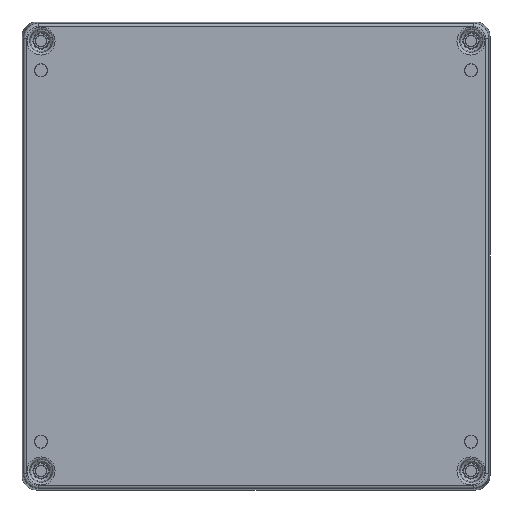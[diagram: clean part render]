
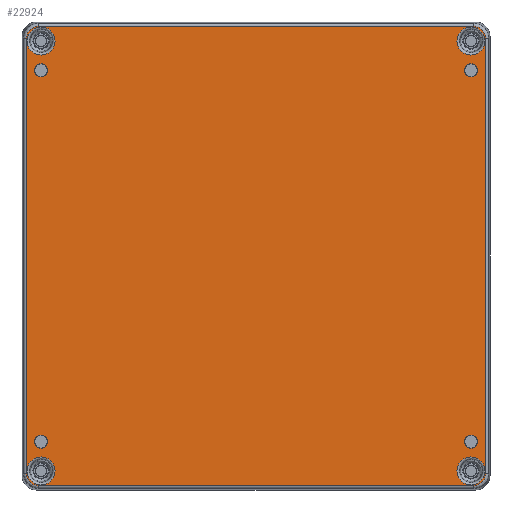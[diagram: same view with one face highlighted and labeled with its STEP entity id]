
A CAD part, front view. The second image highlights one B-rep face of the part: STEP entity #22924.
In plain terms, the highlighted planar face has unit normal (0, -1, 0).
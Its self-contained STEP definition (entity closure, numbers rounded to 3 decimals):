
#465=FACE_BOUND('',#6456,.T.);
#466=FACE_BOUND('',#6457,.T.);
#467=FACE_BOUND('',#6458,.T.);
#468=FACE_BOUND('',#6459,.T.);
#469=FACE_BOUND('',#6460,.T.);
#470=FACE_BOUND('',#6461,.T.);
#471=FACE_BOUND('',#6462,.T.);
#472=FACE_BOUND('',#6463,.T.);
#772=ELLIPSE('',#24595,4.001,4.);
#773=ELLIPSE('',#24596,4.001,4.);
#774=ELLIPSE('',#24597,4.001,4.);
#775=ELLIPSE('',#24598,4.001,4.);
#1121=LINE('',#40956,#2839);
#1122=LINE('',#40960,#2840);
#1123=LINE('',#40964,#2841);
#1124=LINE('',#40968,#2842);
#2839=VECTOR('',#27202,10.);
#2840=VECTOR('',#27205,10.);
#2841=VECTOR('',#27208,10.);
#2842=VECTOR('',#27211,10.);
#4294=PLANE('',#24594);
#5016=FACE_OUTER_BOUND('',#6455,.T.);
#6455=EDGE_LOOP('',(#16374,#16375,#16376,#16377,#16378,#16379,#16380,#16381));
#6456=EDGE_LOOP('',(#16382));
#6457=EDGE_LOOP('',(#16383));
#6458=EDGE_LOOP('',(#16384));
#6459=EDGE_LOOP('',(#16385));
#6460=EDGE_LOOP('',(#16386));
#6461=EDGE_LOOP('',(#16387));
#6462=EDGE_LOOP('',(#16388));
#6463=EDGE_LOOP('',(#16389));
#7985=CIRCLE('',#24592,4.787);
#7987=CIRCLE('',#24599,4.787);
#7988=CIRCLE('',#24600,4.787);
#7989=CIRCLE('',#24601,2.258);
#7990=CIRCLE('',#24602,2.258);
#7991=CIRCLE('',#24603,2.258);
#7992=CIRCLE('',#24604,2.258);
#7993=CIRCLE('',#24605,4.787);
#10197=VERTEX_POINT('',#40950);
#10198=VERTEX_POINT('',#40954);
#10199=VERTEX_POINT('',#40955);
#10200=VERTEX_POINT('',#40957);
#10201=VERTEX_POINT('',#40959);
#10202=VERTEX_POINT('',#40961);
#10203=VERTEX_POINT('',#40963);
#10204=VERTEX_POINT('',#40965);
#10205=VERTEX_POINT('',#40967);
#10206=VERTEX_POINT('',#40970);
#10207=VERTEX_POINT('',#40972);
#10208=VERTEX_POINT('',#40974);
#10209=VERTEX_POINT('',#40976);
#10210=VERTEX_POINT('',#40978);
#10211=VERTEX_POINT('',#40980);
#10212=VERTEX_POINT('',#40982);
#12604=EDGE_CURVE('',#10197,#10197,#7985,.T.);
#12606=EDGE_CURVE('',#10198,#10199,#1121,.T.);
#12607=EDGE_CURVE('',#10200,#10198,#772,.T.);
#12608=EDGE_CURVE('',#10201,#10200,#1122,.T.);
#12609=EDGE_CURVE('',#10202,#10201,#773,.T.);
#12610=EDGE_CURVE('',#10203,#10202,#1123,.T.);
#12611=EDGE_CURVE('',#10204,#10203,#774,.T.);
#12612=EDGE_CURVE('',#10205,#10204,#1124,.T.);
#12613=EDGE_CURVE('',#10199,#10205,#775,.T.);
#12614=EDGE_CURVE('',#10206,#10206,#7987,.T.);
#12615=EDGE_CURVE('',#10207,#10207,#7988,.T.);
#12616=EDGE_CURVE('',#10208,#10208,#7989,.F.);
#12617=EDGE_CURVE('',#10209,#10209,#7990,.F.);
#12618=EDGE_CURVE('',#10210,#10210,#7991,.F.);
#12619=EDGE_CURVE('',#10211,#10211,#7992,.F.);
#12620=EDGE_CURVE('',#10212,#10212,#7993,.T.);
#16374=ORIENTED_EDGE('',*,*,#12606,.F.);
#16375=ORIENTED_EDGE('',*,*,#12607,.F.);
#16376=ORIENTED_EDGE('',*,*,#12608,.F.);
#16377=ORIENTED_EDGE('',*,*,#12609,.F.);
#16378=ORIENTED_EDGE('',*,*,#12610,.F.);
#16379=ORIENTED_EDGE('',*,*,#12611,.F.);
#16380=ORIENTED_EDGE('',*,*,#12612,.F.);
#16381=ORIENTED_EDGE('',*,*,#12613,.F.);
#16382=ORIENTED_EDGE('',*,*,#12614,.F.);
#16383=ORIENTED_EDGE('',*,*,#12615,.F.);
#16384=ORIENTED_EDGE('',*,*,#12616,.T.);
#16385=ORIENTED_EDGE('',*,*,#12617,.T.);
#16386=ORIENTED_EDGE('',*,*,#12618,.T.);
#16387=ORIENTED_EDGE('',*,*,#12619,.T.);
#16388=ORIENTED_EDGE('',*,*,#12620,.F.);
#16389=ORIENTED_EDGE('',*,*,#12604,.F.);
#22924=ADVANCED_FACE('',(#5016,#465,#466,#467,#468,#469,#470,#471,#472),
#4294,.T.);
#24592=AXIS2_PLACEMENT_3D('',#40951,#27196,#27197);
#24594=AXIS2_PLACEMENT_3D('',#40953,#27200,#27201);
#24595=AXIS2_PLACEMENT_3D('',#40958,#27203,#27204);
#24596=AXIS2_PLACEMENT_3D('',#40962,#27206,#27207);
#24597=AXIS2_PLACEMENT_3D('',#40966,#27209,#27210);
#24598=AXIS2_PLACEMENT_3D('',#40969,#27212,#27213);
#24599=AXIS2_PLACEMENT_3D('',#40971,#27214,#27215);
#24600=AXIS2_PLACEMENT_3D('',#40973,#27216,#27217);
#24601=AXIS2_PLACEMENT_3D('',#40975,#27218,#27219);
#24602=AXIS2_PLACEMENT_3D('',#40977,#27220,#27221);
#24603=AXIS2_PLACEMENT_3D('',#40979,#27222,#27223);
#24604=AXIS2_PLACEMENT_3D('',#40981,#27224,#27225);
#24605=AXIS2_PLACEMENT_3D('',#40983,#27226,#27227);
#27196=DIRECTION('center_axis',(0.,-1.,0.));
#27197=DIRECTION('ref_axis',(-1.,0.,0.));
#27200=DIRECTION('center_axis',(0.,-1.,0.));
#27201=DIRECTION('ref_axis',(0.,0.,-1.));
#27202=DIRECTION('',(1.,0.,0.));
#27203=DIRECTION('center_axis',(0.,1.,0.));
#27204=DIRECTION('ref_axis',(-0.707,0.,0.707));
#27205=DIRECTION('',(0.,0.,1.));
#27206=DIRECTION('center_axis',(0.,1.,0.));
#27207=DIRECTION('ref_axis',(-0.707,0.,-0.707));
#27208=DIRECTION('',(-1.,0.,0.));
#27209=DIRECTION('center_axis',(0.,1.,0.));
#27210=DIRECTION('ref_axis',(0.707,0.,-0.707));
#27211=DIRECTION('',(0.,0.,-1.));
#27212=DIRECTION('center_axis',(0.,1.,0.));
#27213=DIRECTION('ref_axis',(0.707,0.,0.707));
#27214=DIRECTION('center_axis',(0.,-1.,0.));
#27215=DIRECTION('ref_axis',(-1.,0.,0.));
#27216=DIRECTION('center_axis',(0.,-1.,0.));
#27217=DIRECTION('ref_axis',(1.,0.,0.));
#27218=DIRECTION('center_axis',(0.,-1.,0.));
#27219=DIRECTION('ref_axis',(-1.,0.,0.));
#27220=DIRECTION('center_axis',(0.,-1.,0.));
#27221=DIRECTION('ref_axis',(1.,0.,0.));
#27222=DIRECTION('center_axis',(0.,-1.,0.));
#27223=DIRECTION('ref_axis',(-1.,0.,0.));
#27224=DIRECTION('center_axis',(0.,-1.,0.));
#27225=DIRECTION('ref_axis',(1.,0.,0.));
#27226=DIRECTION('center_axis',(0.,-1.,0.));
#27227=DIRECTION('ref_axis',(1.,0.,0.));
#40950=CARTESIAN_POINT('',(-73.5,-30.55,-78.287));
#40951=CARTESIAN_POINT('Origin',(-73.5,-30.55,-73.5));
#40953=CARTESIAN_POINT('Origin',(0.,-30.55,0.));
#40954=CARTESIAN_POINT('',(-74.485,-30.55,78.484));
#40955=CARTESIAN_POINT('',(74.485,-30.55,78.484));
#40956=CARTESIAN_POINT('',(-40.,-30.55,78.484));
#40957=CARTESIAN_POINT('',(-78.484,-30.55,74.485));
#40958=CARTESIAN_POINT('Origin',(-74.483,-30.55,74.483));
#40959=CARTESIAN_POINT('',(-78.484,-30.55,-74.485));
#40960=CARTESIAN_POINT('',(-78.484,-30.55,-40.));
#40961=CARTESIAN_POINT('',(-74.485,-30.55,-78.484));
#40962=CARTESIAN_POINT('Origin',(-74.483,-30.55,-74.483));
#40963=CARTESIAN_POINT('',(74.485,-30.55,-78.484));
#40964=CARTESIAN_POINT('',(40.,-30.55,-78.484));
#40965=CARTESIAN_POINT('',(78.484,-30.55,-74.485));
#40966=CARTESIAN_POINT('Origin',(74.483,-30.55,-74.483));
#40967=CARTESIAN_POINT('',(78.484,-30.55,74.485));
#40968=CARTESIAN_POINT('',(78.484,-30.55,40.));
#40969=CARTESIAN_POINT('Origin',(74.483,-30.55,74.483));
#40970=CARTESIAN_POINT('',(-73.5,-30.55,68.713));
#40971=CARTESIAN_POINT('Origin',(-73.5,-30.55,73.5));
#40972=CARTESIAN_POINT('',(73.5,-30.55,68.713));
#40973=CARTESIAN_POINT('Origin',(73.5,-30.55,73.5));
#40974=CARTESIAN_POINT('',(-71.242,-30.55,-63.5));
#40975=CARTESIAN_POINT('Origin',(-73.5,-30.55,-63.5));
#40976=CARTESIAN_POINT('',(71.242,-30.55,-63.5));
#40977=CARTESIAN_POINT('Origin',(73.5,-30.55,-63.5));
#40978=CARTESIAN_POINT('',(-71.242,-30.55,63.5));
#40979=CARTESIAN_POINT('Origin',(-73.5,-30.55,63.5));
#40980=CARTESIAN_POINT('',(71.242,-30.55,63.5));
#40981=CARTESIAN_POINT('Origin',(73.5,-30.55,63.5));
#40982=CARTESIAN_POINT('',(73.5,-30.55,-78.287));
#40983=CARTESIAN_POINT('Origin',(73.5,-30.55,-73.5));
